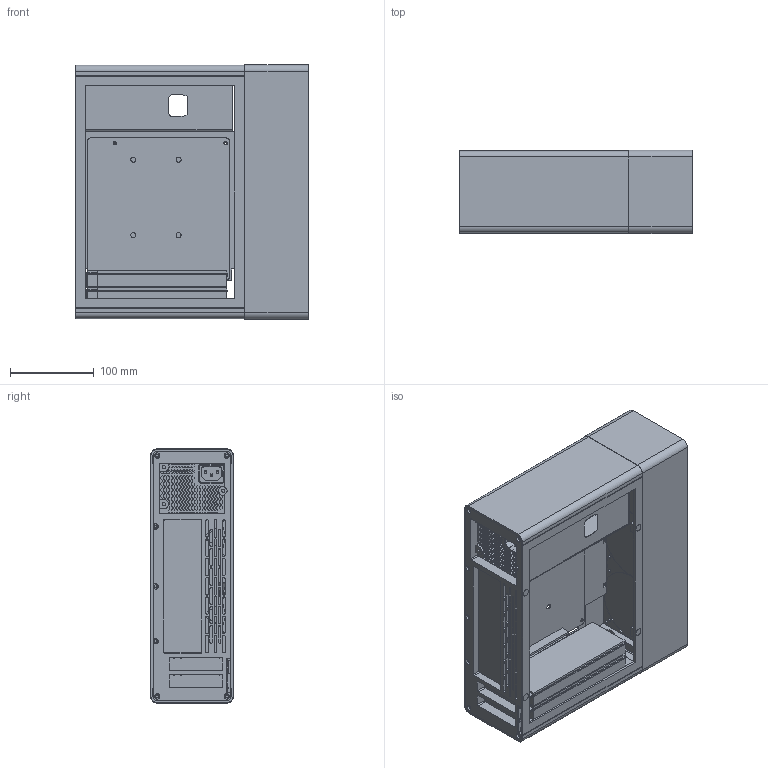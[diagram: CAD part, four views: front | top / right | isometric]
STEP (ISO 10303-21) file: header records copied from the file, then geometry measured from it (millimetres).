
FILE_DESCRIPTION(('FreeCAD Model'),'2;1');
FILE_NAME('Open CASCADE Shape Model','2025-04-24T22:21:21',(''),(''), 'Open CASCADE STEP processor 7.8','FreeCAD','Unknown');
FILE_SCHEMA(('AUTOMOTIVE_DESIGN { 1 0 10303 214 1 1 1 1 }'));
Length unit declared in the file: millimetre
Products named in the file (395): nordic v26; motherboard v003; motherboard v1; motherboard v002; PCIe-4x-LOW v2; PCIe-4x-LOW; STD-PC-PCIe-GENERIC-PCB_PCIe-4x-LOW228; STD-PC-PCIe-GENERIC-PCB_PCIe-4x-LOW; STD-PC-PCIe-GENERIC-PCB_PCIe-4x-LOW001; STD-PC-PCIe-GENERIC-PCB_PCIe-4x-LOW002; STD-PC-PCIe-GENERIC-PCB_PCIe-4x-LOW003; STD-PC-PCIe-GENERIC-PCB_PCIe-4x-LOW004; STD-PC-PCIe-GENERIC-PCB_PCIe-4x-LOW005; STD-PC-PCIe-GENERIC-PCB_PCIe-4x-LOW006; STD-PC-PCIe-GENERIC-PCB_PCIe-4x-LOW007; STD-PC-PCIe-GENERIC-PCB_PCIe-4x-LOW008; STD-PC-PCIe-GENERIC-PCB_PCIe-4x-LOW009; STD-PC-PCIe-GENERIC-PCB_PCIe-4x-LOW010; STD-PC-PCIe-GENERIC-PCB_PCIe-4x-LOW011; STD-PC-PCIe-GENERIC-PCB_PCIe-4x-LOW012; STD-PC-PCIe-GENERIC-PCB_PCIe-4x-LOW013; STD-PC-PCIe-GENERIC-PCB_PCIe-4x-LOW014; STD-PC-PCIe-GENERIC-PCB_PCIe-4x-LOW015; STD-PC-PCIe-GENERIC-PCB_PCIe-4x-LOW016; STD-PC-PCIe-GENERIC-PCB_PCIe-4x-LOW017; STD-PC-PCIe-GENERIC-PCB_PCIe-4x-LOW018; STD-PC-PCIe-GENERIC-PCB_PCIe-4x-LOW019; STD-PC-PCIe-GENERIC-PCB_PCIe-4x-LOW020; STD-PC-PCIe-GENERIC-PCB_PCIe-4x-LOW021; STD-PC-PCIe-GENERIC-PCB_PCIe-4x-LOW022; STD-PC-PCIe-GENERIC-PCB_PCIe-4x-LOW023; STD-PC-PCIe-GENERIC-PCB_PCIe-4x-LOW024; STD-PC-PCIe-GENERIC-PCB_PCIe-4x-LOW025; STD-PC-PCIe-GENERIC-PCB_PCIe-4x-LOW026; STD-PC-PCIe-GENERIC-PCB_PCIe-4x-LOW027; STD-PC-PCIe-GENERIC-PCB_PCIe-4x-LOW028; STD-PC-PCIe-GENERIC-PCB_PCIe-4x-LOW029; STD-PC-PCIe-GENERIC-PCB_PCIe-4x-LOW030; STD-PC-PCIe-GENERIC-PCB_PCIe-4x-LOW031; STD-PC-PCIe-GENERIC-PCB_PCIe-4x-LOW032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
Assembly tree (730 placements, depth 5):
  nordic v26
    motherboard v003
      motherboard v1
      motherboard v002
    PCIe-4x-LOW v2
      PCIe-4x-LOW
        STD-PC-PCIe-GENERIC-PCB_PCIe-4x-LOW228
          STD-PC-PCIe-GENERIC-PCB_PCIe-4x-LOW
          STD-PC-PCIe-GENERIC-PCB_PCIe-4x-LOW001
          STD-PC-PCIe-GENERIC-PCB_PCIe-4x-LOW002
          STD-PC-PCIe-GENERIC-PCB_PCIe-4x-LOW003
          STD-PC-PCIe-GENERIC-PCB_PCIe-4x-LOW004
          STD-PC-PCIe-GENERIC-PCB_PCIe-4x-LOW005
          STD-PC-PCIe-GENERIC-PCB_PCIe-4x-LOW006
          STD-PC-PCIe-GENERIC-PCB_PCIe-4x-LOW007
          STD-PC-PCIe-GENERIC-PCB_PCIe-4x-LOW008
          STD-PC-PCIe-GENERIC-PCB_PCIe-4x-LOW009
          STD-PC-PCIe-GENERIC-PCB_PCIe-4x-LOW010
          STD-PC-PCIe-GENERIC-PCB_PCIe-4x-LOW011
          STD-PC-PCIe-GENERIC-PCB_PCIe-4x-LOW012
          STD-PC-PCIe-GENERIC-PCB_PCIe-4x-LOW013
          STD-PC-PCIe-GENERIC-PCB_PCIe-4x-LOW014
          STD-PC-PCIe-GENERIC-PCB_PCIe-4x-LOW015
          STD-PC-PCIe-GENERIC-PCB_PCIe-4x-LOW016
          STD-PC-PCIe-GENERIC-PCB_PCIe-4x-LOW017
          STD-PC-PCIe-GENERIC-PCB_PCIe-4x-LOW018
          STD-PC-PCIe-GENERIC-PCB_PCIe-4x-LOW019
          STD-PC-PCIe-GENERIC-PCB_PCIe-4x-LOW020
          STD-PC-PCIe-GENERIC-PCB_PCIe-4x-LOW021
          STD-PC-PCIe-GENERIC-PCB_PCIe-4x-LOW022
          STD-PC-PCIe-GENERIC-PCB_PCIe-4x-LOW023
          STD-PC-PCIe-GENERIC-PCB_PCIe-4x-LOW024
          STD-PC-PCIe-GENERIC-PCB_PCIe-4x-LOW025
          STD-PC-PCIe-GENERIC-PCB_PCIe-4x-LOW026
          STD-PC-PCIe-GENERIC-PCB_PCIe-4x-LOW027
          STD-PC-PCIe-GENERIC-PCB_PCIe-4x-LOW028
          STD-PC-PCIe-GENERIC-PCB_PCIe-4x-LOW029
          STD-PC-PCIe-GENERIC-PCB_PCIe-4x-LOW030
          STD-PC-PCIe-GENERIC-PCB_PCIe-4x-LOW031
          STD-PC-PCIe-GENERIC-PCB_PCIe-4x-LOW032
          STD-PC-PCIe-GENERIC-PCB_PCIe-4x-LOW033
          STD-PC-PCIe-GENERIC-PCB_PCIe-4x-LOW034
          STD-PC-PCIe-GENERIC-PCB_PCIe-4x-LOW035
          STD-PC-PCIe-GENERIC-PCB_PCIe-4x-LOW036
          STD-PC-PCIe-GENERIC-PCB_PCIe-4x-LOW037
          STD-PC-PCIe-GENERIC-PCB_PCIe-4x-LOW038
          STD-PC-PCIe-GENERIC-PCB_PCIe-4x-LOW039
          STD-PC-PCIe-GENERIC-PCB_PCIe-4x-LOW040
          STD-PC-PCIe-GENERIC-PCB_PCIe-4x-LOW041
          STD-PC-PCIe-GENERIC-PCB_PCIe-4x-LOW042
          STD-PC-PCIe-GENERIC-PCB_PCIe-4x-LOW043
          STD-PC-PCIe-GENERIC-PCB_PCIe-4x-LOW044
          STD-PC-PCIe-GENERIC-PCB_PCIe-4x-LOW045
          STD-PC-PCIe-GENERIC-PCB_PCIe-4x-LOW046
          STD-PC-PCIe-GENERIC-PCB_PCIe-4x-LOW047
          STD-PC-PCIe-GENERIC-PCB_PCIe-4x-LOW048
          STD-PC-PCIe-GENERIC-PCB_PCIe-4x-LOW049
          STD-PC-PCIe-GENERIC-PCB_PCIe-4x-LOW050
          STD-PC-PCIe-GENERIC-PCB_PCIe-4x-LOW051
          STD-PC-PCIe-GENERIC-PCB_PCIe-4x-LOW052
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Bounding box: 277.84 x 99 x 303.34 mm (x, y, z)
Volume: 1632452.8 mm3; surface area: 1061902.7 mm2
Topology: 42 solids, 707 shells, 4031 faces, 12447 edges, 9268 vertices
Faces by surface type: plane 2988, cylinder 730, bspline 219, cone 91, torus 3
Full cylindrical faces by diameter (mm): 2.23 x1, 2.7 x4, 3 x6, 3.6 x32, 3.7 x24, 4 x14, 4.25 x38, 4.5 x28, 5.5 x2, 6 x4, 6.2 x1, 6.3 x7, 6.5 x8, 7 x4, 8.5 x24, 10 x4, 12 x3, 14 x1, 22 x2, 30 x1, 32 x3, 77.4 x1, 87.9 x3, 92 x3
Entity records: 137846 total; most frequent: CARTESIAN_POINT 27657, DIRECTION 18547, ORIENTED_EDGE 18056, EDGE_CURVE 9777, LINE 8121, VECTOR 8121, VERTEX_POINT 7006, AXIS2_PLACEMENT_3D 5213
